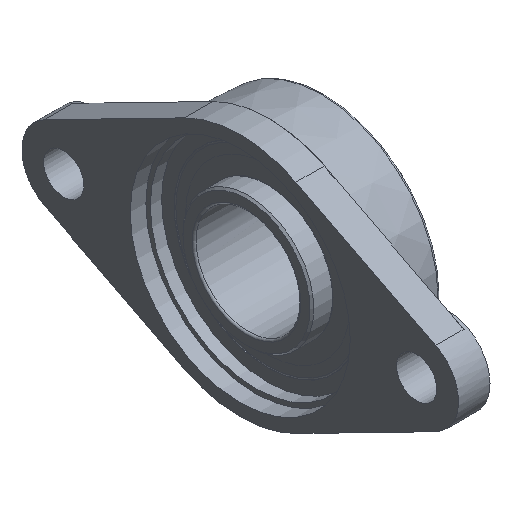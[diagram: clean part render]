
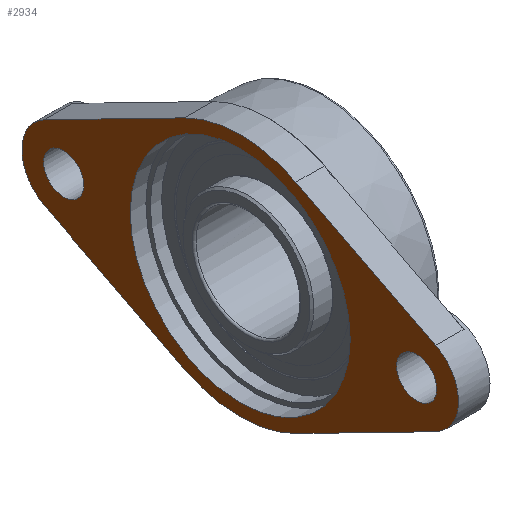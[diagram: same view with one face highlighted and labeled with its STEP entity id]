
A CAD part, isometric view. The second image highlights one B-rep face of the part: STEP entity #2934.
In plain terms, the highlighted planar face has unit normal (-1, 0, 0).
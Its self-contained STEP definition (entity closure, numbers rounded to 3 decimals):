
#4 = LINE ( 'NONE', #2418, #457 ) ;
#13 = VERTEX_POINT ( 'NONE', #273 ) ;
#30 = FACE_BOUND ( 'NONE', #2809, .T. ) ;
#48 = CARTESIAN_POINT ( 'NONE',  ( -29., 111.931, -21.366 ) ) ;
#55 = VERTEX_POINT ( 'NONE', #299 ) ;
#60 = VERTEX_POINT ( 'NONE', #306 ) ;
#73 = CARTESIAN_POINT ( 'NONE',  ( -29., 31.881, -62.318 ) ) ;
#95 = CARTESIAN_POINT ( 'NONE',  ( -29., 111.931, 21.366 ) ) ;
#97 = CARTESIAN_POINT ( 'NONE',  ( -29., -31.881, 62.318 ) ) ;
#146 = FACE_OUTER_BOUND ( 'NONE', #2815, .T. ) ;
#157 = DIRECTION ( 'NONE',  ( 0., -0.89, 0.455 ) ) ;
#168 = FACE_BOUND ( 'NONE', #2433, .T. ) ;
#189 = FACE_BOUND ( 'NONE', #1593, .T. ) ;
#198 = CARTESIAN_POINT ( 'NONE',  ( -29., 111.931, 21.366 ) ) ;
#273 = CARTESIAN_POINT ( 'NONE',  ( -29., 101., -11.5 ) ) ;
#299 = CARTESIAN_POINT ( 'NONE',  ( -29., -101., -11.5 ) ) ;
#306 = CARTESIAN_POINT ( 'NONE',  ( -29., 0., -63. ) ) ;
#389 = CIRCLE ( 'NONE', #1168, 11.5 ) ;
#457 = VECTOR ( 'NONE', #2406, 1000. ) ;
#464 = VECTOR ( 'NONE', #2428, 1000. ) ;
#470 = LINE ( 'NONE', #2451, #464 ) ;
#522 = DIRECTION ( 'NONE',  ( 0., 0., -1. ) ) ;
#528 = PLANE ( 'NONE',  #736 ) ;
#542 = CARTESIAN_POINT ( 'NONE',  ( -29., 0., 0. ) ) ;
#549 = DIRECTION ( 'NONE',  ( 1., 0., 0. ) ) ;
#661 = CIRCLE ( 'NONE', #1630, 24. ) ;
#673 = CIRCLE ( 'NONE', #1671, 11.5 ) ;
#691 = CIRCLE ( 'NONE', #1693, 63. ) ;
#706 = CARTESIAN_POINT ( 'NONE',  ( -29., -111.931, 21.366 ) ) ;
#736 = AXIS2_PLACEMENT_3D ( 'NONE', #542, #549, #522 ) ;
#764 = VECTOR ( 'NONE', #157, 1000. ) ;
#790 = LINE ( 'NONE', #198, #764 ) ;
#800 = CIRCLE ( 'NONE', #1816, 70. ) ;
#805 = CIRCLE ( 'NONE', #1830, 24. ) ;
#825 = CIRCLE ( 'NONE', #1878, 70. ) ;
#857 = DIRECTION ( 'NONE',  ( 0., 0.89, 0.455 ) ) ;
#863 = LINE ( 'NONE', #706, #882 ) ;
#876 = CARTESIAN_POINT ( 'NONE',  ( -29., 0., 0. ) ) ;
#881 = DIRECTION ( 'NONE',  ( 1., 0., 0. ) ) ;
#882 = VECTOR ( 'NONE', #857, 1000. ) ;
#885 = DIRECTION ( 'NONE',  ( 0., 0., -1. ) ) ;
#941 = DIRECTION ( 'NONE',  ( 0., 0., -1. ) ) ;
#966 = CARTESIAN_POINT ( 'NONE',  ( -29., -101., 0. ) ) ;
#968 = DIRECTION ( 'NONE',  ( 1., 0., 0. ) ) ;
#996 = CARTESIAN_POINT ( 'NONE',  ( -29., 31.881, 62.318 ) ) ;
#1038 = CARTESIAN_POINT ( 'NONE',  ( -29., -111.931, -21.366 ) ) ;
#1074 = EDGE_CURVE ( 'E240', #2004, #1562, #863, .T. ) ;
#1168 = AXIS2_PLACEMENT_3D ( 'NONE', #1737, #1736, #1728 ) ;
#1211 = EDGE_CURVE ( 'E350', #1845, #1421, #825, .T. ) ;
#1285 = EDGE_CURVE ( 'E246', #2004, #2797, #805, .T. ) ;
#1314 = EDGE_CURVE ( 'E214', #2806, #1562, #800, .T. ) ;
#1331 = DIRECTION ( 'NONE',  ( 1., 0., 0. ) ) ;
#1358 = VERTEX_POINT ( 'NONE', #48 ) ;
#1421 = VERTEX_POINT ( 'NONE', #73 ) ;
#1452 = DIRECTION ( 'NONE',  ( 0., 0., -1. ) ) ;
#1461 = VERTEX_POINT ( 'NONE', #95 ) ;
#1468 = CARTESIAN_POINT ( 'NONE',  ( -29., 101., 0. ) ) ;
#1562 = VERTEX_POINT ( 'NONE', #97 ) ;
#1572 = EDGE_CURVE ( 'E193', #1461, #2806, #790, .T. ) ;
#1593 = EDGE_LOOP ( 'NONE', ( #2794 ) ) ;
#1611 = CARTESIAN_POINT ( 'NONE',  ( -29., -111.931, 21.366 ) ) ;
#1630 = AXIS2_PLACEMENT_3D ( 'NONE', #1468, #1331, #1452 ) ;
#1642 = DIRECTION ( 'NONE',  ( 0., 0., -1. ) ) ;
#1645 = CARTESIAN_POINT ( 'NONE',  ( -29., -101., 0. ) ) ;
#1671 = AXIS2_PLACEMENT_3D ( 'NONE', #1645, #1684, #1642 ) ;
#1684 = DIRECTION ( 'NONE',  ( 1., 0., 0. ) ) ;
#1693 = AXIS2_PLACEMENT_3D ( 'NONE', #2864, #2940, #2929 ) ;
#1728 = DIRECTION ( 'NONE',  ( 0., 0., -1. ) ) ;
#1736 = DIRECTION ( 'NONE',  ( 1., 0., 0. ) ) ;
#1737 = CARTESIAN_POINT ( 'NONE',  ( -29., 101., 0. ) ) ;
#1816 = AXIS2_PLACEMENT_3D ( 'NONE', #2505, #2518, #2499 ) ;
#1830 = AXIS2_PLACEMENT_3D ( 'NONE', #966, #968, #941 ) ;
#1845 = VERTEX_POINT ( 'NONE', #2588 ) ;
#1853 = EDGE_CURVE ( 'NONE', #60, #60, #691, .T. ) ;
#1878 = AXIS2_PLACEMENT_3D ( 'NONE', #876, #881, #885 ) ;
#2002 = EDGE_CURVE ( 'NONE', #55, #55, #673, .T. ) ;
#2004 = VERTEX_POINT ( 'NONE', #1611 ) ;
#2071 = EDGE_CURVE ( 'E382', #1358, #1461, #661, .T. ) ;
#2371 = EDGE_CURVE ( 'E376', #1358, #1421, #470, .T. ) ;
#2377 = EDGE_CURVE ( 'E329', #2797, #1845, #4, .T. ) ;
#2406 = DIRECTION ( 'NONE',  ( 0., 0.89, -0.455 ) ) ;
#2418 = CARTESIAN_POINT ( 'NONE',  ( -29., -111.931, -21.366 ) ) ;
#2428 = DIRECTION ( 'NONE',  ( 0., -0.89, -0.455 ) ) ;
#2433 = EDGE_LOOP ( 'NONE', ( #2798 ) ) ;
#2451 = CARTESIAN_POINT ( 'NONE',  ( -29., 111.931, -21.366 ) ) ;
#2499 = DIRECTION ( 'NONE',  ( 0., 0., -1. ) ) ;
#2505 = CARTESIAN_POINT ( 'NONE',  ( -29., 0., 0. ) ) ;
#2518 = DIRECTION ( 'NONE',  ( 1., 0., 0. ) ) ;
#2521 = EDGE_CURVE ( 'NONE', #13, #13, #389, .T. ) ;
#2588 = CARTESIAN_POINT ( 'NONE',  ( -29., -31.881, -62.318 ) ) ;
#2622 = ORIENTED_EDGE ( 'NONE', *, *, #1211, .F. ) ;
#2794 = ORIENTED_EDGE ( 'NONE', *, *, #1853, .T. ) ;
#2797 = VERTEX_POINT ( 'NONE', #1038 ) ;
#2798 = ORIENTED_EDGE ( 'NONE', *, *, #2002, .T. ) ;
#2801 = ORIENTED_EDGE ( 'NONE', *, *, #2521, .T. ) ;
#2803 = ORIENTED_EDGE ( 'NONE', *, *, #2377, .F. ) ;
#2806 = VERTEX_POINT ( 'NONE', #996 ) ;
#2809 = EDGE_LOOP ( 'NONE', ( #2801 ) ) ;
#2812 = ORIENTED_EDGE ( 'NONE', *, *, #1074, .T. ) ;
#2815 = EDGE_LOOP ( 'NONE', ( #2803, #2822, #2812, #2832, #2860, #2854, #2846, #2622 ) ) ;
#2822 = ORIENTED_EDGE ( 'NONE', *, *, #1285, .F. ) ;
#2832 = ORIENTED_EDGE ( 'NONE', *, *, #1314, .F. ) ;
#2846 = ORIENTED_EDGE ( 'NONE', *, *, #2371, .T. ) ;
#2854 = ORIENTED_EDGE ( 'NONE', *, *, #2071, .F. ) ;
#2860 = ORIENTED_EDGE ( 'NONE', *, *, #1572, .F. ) ;
#2864 = CARTESIAN_POINT ( 'NONE',  ( -29., 0., 0. ) ) ;
#2929 = DIRECTION ( 'NONE',  ( 0., 0., -1. ) ) ;
#2934 = ADVANCED_FACE ( 'E454', ( #189, #168, #30, #146 ), #528, .F. ) ;
#2940 = DIRECTION ( 'NONE',  ( 1., 0., 0. ) ) ;
